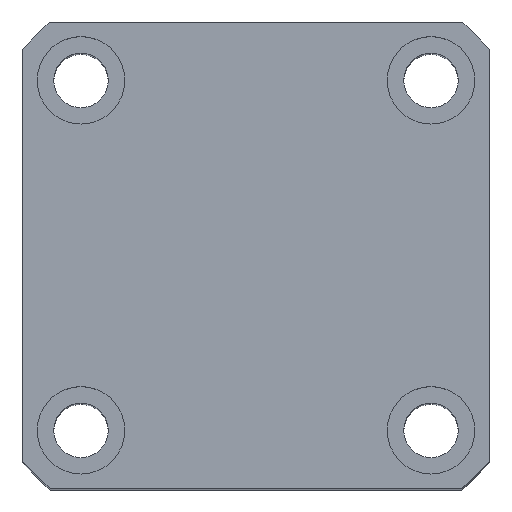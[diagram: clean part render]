
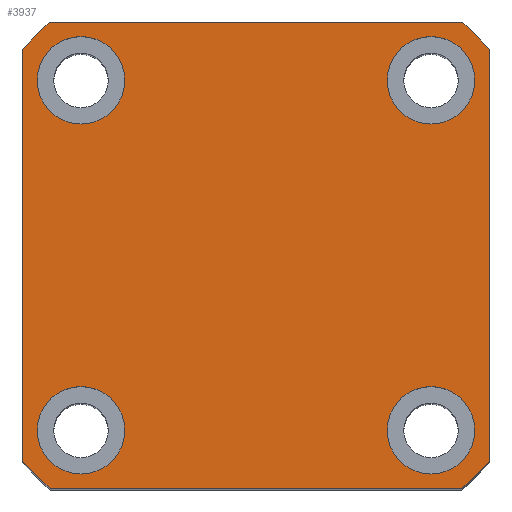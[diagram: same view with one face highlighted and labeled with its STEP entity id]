
A CAD part, top view. The second image highlights one B-rep face of the part: STEP entity #3937.
In plain terms, the highlighted planar face has unit normal (0, 0, 1) as drawn and (1, 0, 0) by its records, which use the part's own axes.
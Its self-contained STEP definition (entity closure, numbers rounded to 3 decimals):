
#4 = DIRECTION ( 'NONE',  ( 0., 0., -1. ) ) ;
#17 = DIRECTION ( 'NONE',  ( 1., 0., 0. ) ) ;
#24 = ORIENTED_EDGE ( 'NONE', *, *, #6270, .T. ) ;
#32 = CARTESIAN_POINT ( 'NONE',  ( 80., -18., 18. ) ) ;
#60 = PLANE ( 'NONE',  #7165 ) ;
#64 = EDGE_CURVE ( 'NONE', #7491, #2877, #6350, .T. ) ;
#69 = CARTESIAN_POINT ( 'NONE',  ( 80., 18., -22.5 ) ) ;
#103 = LINE ( 'NONE', #6260, #1747 ) ;
#188 = LINE ( 'NONE', #1124, #1642 ) ;
#223 = CARTESIAN_POINT ( 'NONE',  ( 80., 0., 0. ) ) ;
#278 = EDGE_CURVE ( 'NONE', #5287, #5779, #1382, .T. ) ;
#316 = DIRECTION ( 'NONE',  ( 1., 0., 0. ) ) ;
#322 = CARTESIAN_POINT ( 'NONE',  ( 80., 24., 21.166 ) ) ;
#470 = CARTESIAN_POINT ( 'NONE',  ( 80., -18., -13.5 ) ) ;
#478 = EDGE_CURVE ( 'NONE', #2877, #5159, #3709, .T. ) ;
#551 = CARTESIAN_POINT ( 'NONE',  ( 80., 18., 22.5 ) ) ;
#615 = ORIENTED_EDGE ( 'NONE', *, *, #2352, .F. ) ;
#686 = AXIS2_PLACEMENT_3D ( 'NONE', #5802, #2073, #6429 ) ;
#698 = CARTESIAN_POINT ( 'NONE',  ( 80., 18., 13.5 ) ) ;
#782 = EDGE_CURVE ( 'NONE', #4780, #3528, #1277, .T. ) ;
#784 = CARTESIAN_POINT ( 'NONE',  ( 80., -24., 21.166 ) ) ;
#830 = CARTESIAN_POINT ( 'NONE',  ( 80., 18., -13.5 ) ) ;
#1050 = EDGE_CURVE ( 'NONE', #8053, #7626, #5067, .T. ) ;
#1064 = DIRECTION ( 'NONE',  ( 0., 0., -1. ) ) ;
#1097 = AXIS2_PLACEMENT_3D ( 'NONE', #223, #316, #5001 ) ;
#1124 = CARTESIAN_POINT ( 'NONE',  ( 80., -24., 24. ) ) ;
#1139 = DIRECTION ( 'NONE',  ( 0., 0., -1. ) ) ;
#1212 = CARTESIAN_POINT ( 'NONE',  ( 80., 21.166, -24. ) ) ;
#1252 = DIRECTION ( 'NONE',  ( 0., 1., 0. ) ) ;
#1264 = DIRECTION ( 'NONE',  ( 1., 0., 0. ) ) ;
#1277 = CIRCLE ( 'NONE', #7292, 4.5 ) ;
#1349 = FACE_BOUND ( 'NONE', #6569, .T. ) ;
#1382 = CIRCLE ( 'NONE', #6608, 4.5 ) ;
#1473 = ORIENTED_EDGE ( 'NONE', *, *, #2141, .T. ) ;
#1497 = CIRCLE ( 'NONE', #3706, 32. ) ;
#1501 = EDGE_CURVE ( 'NONE', #2544, #3511, #5367, .T. ) ;
#1642 = VECTOR ( 'NONE', #1064, 1000. ) ;
#1747 = VECTOR ( 'NONE', #7058, 1000. ) ;
#1935 = DIRECTION ( 'NONE',  ( 1., 0., 0. ) ) ;
#2073 = DIRECTION ( 'NONE',  ( 1., 0., 0. ) ) ;
#2086 = CIRCLE ( 'NONE', #686, 4.5 ) ;
#2132 = ORIENTED_EDGE ( 'NONE', *, *, #3453, .T. ) ;
#2141 = EDGE_CURVE ( 'NONE', #3192, #5469, #103, .T. ) ;
#2142 = CIRCLE ( 'NONE', #3653, 4.5 ) ;
#2149 = VERTEX_POINT ( 'NONE', #6400 ) ;
#2167 = DIRECTION ( 'NONE',  ( 1., 0., 0. ) ) ;
#2178 = CARTESIAN_POINT ( 'NONE',  ( 80., 0., 0. ) ) ;
#2192 = EDGE_LOOP ( 'NONE', ( #7482, #7642 ) ) ;
#2277 = EDGE_LOOP ( 'NONE', ( #6024, #615 ) ) ;
#2352 = EDGE_CURVE ( 'NONE', #5779, #5287, #7608, .T. ) ;
#2421 = DIRECTION ( 'NONE',  ( 1., 0., 0. ) ) ;
#2544 = VERTEX_POINT ( 'NONE', #3219 ) ;
#2545 = CARTESIAN_POINT ( 'NONE',  ( 80., 24., 24. ) ) ;
#2591 = DIRECTION ( 'NONE',  ( 0., 0., 1. ) ) ;
#2593 = CARTESIAN_POINT ( 'NONE',  ( 80., -18., 13.5 ) ) ;
#2647 = EDGE_CURVE ( 'NONE', #2149, #4192, #6802, .T. ) ;
#2777 = AXIS2_PLACEMENT_3D ( 'NONE', #4906, #4876, #3898 ) ;
#2778 = EDGE_CURVE ( 'NONE', #4192, #3192, #4576, .T. ) ;
#2792 = EDGE_CURVE ( 'NONE', #5159, #2149, #7712, .T. ) ;
#2827 = FACE_OUTER_BOUND ( 'NONE', #5869, .T. ) ;
#2877 = VERTEX_POINT ( 'NONE', #6338 ) ;
#3084 = DIRECTION ( 'NONE',  ( 0., 0., -1. ) ) ;
#3091 = CARTESIAN_POINT ( 'NONE',  ( 80., 18., 18. ) ) ;
#3129 = DIRECTION ( 'NONE',  ( 1., 0., 0. ) ) ;
#3192 = VERTEX_POINT ( 'NONE', #4521 ) ;
#3219 = CARTESIAN_POINT ( 'NONE',  ( 80., -18., -22.5 ) ) ;
#3232 = DIRECTION ( 'NONE',  ( 1., 0., 0. ) ) ;
#3310 = VECTOR ( 'NONE', #2591, 1000. ) ;
#3453 = EDGE_CURVE ( 'NONE', #7615, #7491, #188, .T. ) ;
#3511 = VERTEX_POINT ( 'NONE', #470 ) ;
#3528 = VERTEX_POINT ( 'NONE', #551 ) ;
#3653 = AXIS2_PLACEMENT_3D ( 'NONE', #5889, #2167, #6510 ) ;
#3681 = AXIS2_PLACEMENT_3D ( 'NONE', #2178, #1264, #1139 ) ;
#3706 = AXIS2_PLACEMENT_3D ( 'NONE', #6158, #2421, #6767 ) ;
#3709 = LINE ( 'NONE', #5150, #5762 ) ;
#3898 = DIRECTION ( 'NONE',  ( 0., 0., -1. ) ) ;
#3937 = ADVANCED_FACE ( 'NONE', ( #7810, #6118, #4462, #1349, #2827 ), #60, .T. ) ;
#3991 = ORIENTED_EDGE ( 'NONE', *, *, #2647, .T. ) ;
#4032 = DIRECTION ( 'NONE',  ( 0., 0., -1. ) ) ;
#4086 = CARTESIAN_POINT ( 'NONE',  ( 80., 18., -18. ) ) ;
#4148 = EDGE_CURVE ( 'NONE', #7626, #8053, #2142, .T. ) ;
#4169 = AXIS2_PLACEMENT_3D ( 'NONE', #4257, #4249, #4236 ) ;
#4192 = VERTEX_POINT ( 'NONE', #322 ) ;
#4220 = DIRECTION ( 'NONE',  ( 0., 0., -1. ) ) ;
#4236 = DIRECTION ( 'NONE',  ( 0., 0., -1. ) ) ;
#4249 = DIRECTION ( 'NONE',  ( 1., 0., 0. ) ) ;
#4257 = CARTESIAN_POINT ( 'NONE',  ( 80., 18., -18. ) ) ;
#4388 = DIRECTION ( 'NONE',  ( 1., 0., 0. ) ) ;
#4402 = CARTESIAN_POINT ( 'NONE',  ( 80., -18., -18. ) ) ;
#4462 = FACE_BOUND ( 'NONE', #2277, .T. ) ;
#4521 = CARTESIAN_POINT ( 'NONE',  ( 80., 21.166, 24. ) ) ;
#4576 = CIRCLE ( 'NONE', #1097, 32. ) ;
#4780 = VERTEX_POINT ( 'NONE', #698 ) ;
#4876 = DIRECTION ( 'NONE',  ( 1., 0., 0. ) ) ;
#4888 = AXIS2_PLACEMENT_3D ( 'NONE', #4402, #4388, #4220 ) ;
#4906 = CARTESIAN_POINT ( 'NONE',  ( 80., 0., 0. ) ) ;
#4996 = EDGE_LOOP ( 'NONE', ( #6565, #5486 ) ) ;
#5001 = DIRECTION ( 'NONE',  ( 0., 0., -1. ) ) ;
#5030 = AXIS2_PLACEMENT_3D ( 'NONE', #32, #17, #4 ) ;
#5067 = CIRCLE ( 'NONE', #5030, 4.5 ) ;
#5080 = CIRCLE ( 'NONE', #7921, 4.5 ) ;
#5131 = ORIENTED_EDGE ( 'NONE', *, *, #2792, .T. ) ;
#5135 = ORIENTED_EDGE ( 'NONE', *, *, #782, .F. ) ;
#5150 = CARTESIAN_POINT ( 'NONE',  ( 80., 24., -24. ) ) ;
#5159 = VERTEX_POINT ( 'NONE', #1212 ) ;
#5287 = VERTEX_POINT ( 'NONE', #69 ) ;
#5316 = EDGE_CURVE ( 'NONE', #3528, #4780, #2086, .T. ) ;
#5334 = ORIENTED_EDGE ( 'NONE', *, *, #64, .T. ) ;
#5367 = CIRCLE ( 'NONE', #4888, 4.5 ) ;
#5469 = VERTEX_POINT ( 'NONE', #5509 ) ;
#5486 = ORIENTED_EDGE ( 'NONE', *, *, #1050, .F. ) ;
#5509 = CARTESIAN_POINT ( 'NONE',  ( 80., -21.166, 24. ) ) ;
#5632 = ORIENTED_EDGE ( 'NONE', *, *, #5316, .F. ) ;
#5680 = CARTESIAN_POINT ( 'NONE',  ( 80., 0., 0. ) ) ;
#5762 = VECTOR ( 'NONE', #1252, 1000. ) ;
#5779 = VERTEX_POINT ( 'NONE', #830 ) ;
#5802 = CARTESIAN_POINT ( 'NONE',  ( 80., 18., 18. ) ) ;
#5856 = CARTESIAN_POINT ( 'NONE',  ( 80., -18., 22.5 ) ) ;
#5869 = EDGE_LOOP ( 'NONE', ( #6609, #5131, #3991, #6528, #1473, #24, #2132, #5334 ) ) ;
#5889 = CARTESIAN_POINT ( 'NONE',  ( 80., -18., 18. ) ) ;
#6024 = ORIENTED_EDGE ( 'NONE', *, *, #278, .F. ) ;
#6118 = FACE_BOUND ( 'NONE', #4996, .T. ) ;
#6158 = CARTESIAN_POINT ( 'NONE',  ( 80., 0., 0. ) ) ;
#6165 = CARTESIAN_POINT ( 'NONE',  ( 80., -24., -21.166 ) ) ;
#6260 = CARTESIAN_POINT ( 'NONE',  ( 80., 24., 24. ) ) ;
#6270 = EDGE_CURVE ( 'NONE', #5469, #7615, #1497, .T. ) ;
#6305 = DIRECTION ( 'NONE',  ( 0., 0., -1. ) ) ;
#6338 = CARTESIAN_POINT ( 'NONE',  ( 80., -21.166, -24. ) ) ;
#6350 = CIRCLE ( 'NONE', #3681, 32. ) ;
#6400 = CARTESIAN_POINT ( 'NONE',  ( 80., 24., -21.166 ) ) ;
#6429 = DIRECTION ( 'NONE',  ( 0., 0., -1. ) ) ;
#6510 = DIRECTION ( 'NONE',  ( 0., 0., -1. ) ) ;
#6522 = DIRECTION ( 'NONE',  ( 1., 0., 0. ) ) ;
#6528 = ORIENTED_EDGE ( 'NONE', *, *, #2778, .T. ) ;
#6563 = EDGE_CURVE ( 'NONE', #3511, #2544, #5080, .T. ) ;
#6565 = ORIENTED_EDGE ( 'NONE', *, *, #4148, .F. ) ;
#6569 = EDGE_LOOP ( 'NONE', ( #5135, #5632 ) ) ;
#6608 = AXIS2_PLACEMENT_3D ( 'NONE', #4086, #6522, #4032 ) ;
#6609 = ORIENTED_EDGE ( 'NONE', *, *, #478, .T. ) ;
#6767 = DIRECTION ( 'NONE',  ( 0., 0., -1. ) ) ;
#6802 = LINE ( 'NONE', #2545, #3310 ) ;
#6957 = CARTESIAN_POINT ( 'NONE',  ( 80., -18., -18. ) ) ;
#7058 = DIRECTION ( 'NONE',  ( 0., -1., 0. ) ) ;
#7165 = AXIS2_PLACEMENT_3D ( 'NONE', #5680, #1935, #6305 ) ;
#7292 = AXIS2_PLACEMENT_3D ( 'NONE', #3091, #3129, #3084 ) ;
#7482 = ORIENTED_EDGE ( 'NONE', *, *, #1501, .F. ) ;
#7491 = VERTEX_POINT ( 'NONE', #6165 ) ;
#7593 = DIRECTION ( 'NONE',  ( 0., 0., -1. ) ) ;
#7608 = CIRCLE ( 'NONE', #4169, 4.5 ) ;
#7615 = VERTEX_POINT ( 'NONE', #784 ) ;
#7626 = VERTEX_POINT ( 'NONE', #2593 ) ;
#7642 = ORIENTED_EDGE ( 'NONE', *, *, #6563, .F. ) ;
#7712 = CIRCLE ( 'NONE', #2777, 32. ) ;
#7810 = FACE_BOUND ( 'NONE', #2192, .T. ) ;
#7921 = AXIS2_PLACEMENT_3D ( 'NONE', #6957, #3232, #7593 ) ;
#8053 = VERTEX_POINT ( 'NONE', #5856 ) ;
